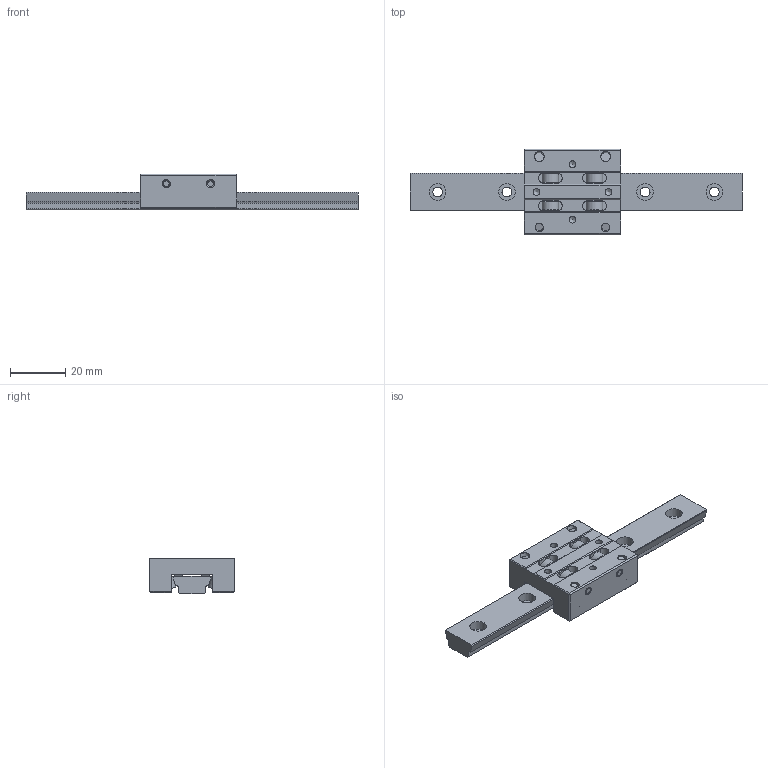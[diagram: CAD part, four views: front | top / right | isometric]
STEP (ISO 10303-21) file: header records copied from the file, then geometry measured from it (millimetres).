
FILE_DESCRIPTION((''),'2;1');
FILE_NAME('D:\製品 (図面)\カタログ用3D\リニアガイド関連\STEP形式\SMG\SMG10.stp','2010-06-02T17:08:30',('Tsuchiya'),(''),'Autodesk Inventor 10','Autodesk Inventor 10','');
FILE_SCHEMA(('AUTOMOTIVE_DESIGN { 1 0 10303 214 1 1 1 1 }'));
Length unit declared in the file: millimetre
Products named in the file (3): SMG10; SMG101; SMG102
Assembly tree (2 placements, depth 2):
  SMG10
    SMG101
    SMG102
Bounding box: 120 x 31 x 13 mm (x, y, z)
Volume: 17607.6 mm3; surface area: 11016 mm2
Topology: 2 solids, 2 shells, 167 faces, 410 edges, 276 vertices
Faces by surface type: plane 70, bspline 67, cylinder 26, cone 4
Full cylindrical faces by diameter (mm): 2 x6, 3 x1, 3.5 x3, 6 x2, 8 x2
Entity records: 5156 total; most frequent: CARTESIAN_POINT 1565, DIRECTION 682, ORIENTED_EDGE 664, EDGE_CURVE 332, EDGE_LOOP 272, AXIS2_PLACEMENT_3D 253, VERTEX_POINT 248, VECTOR 176
